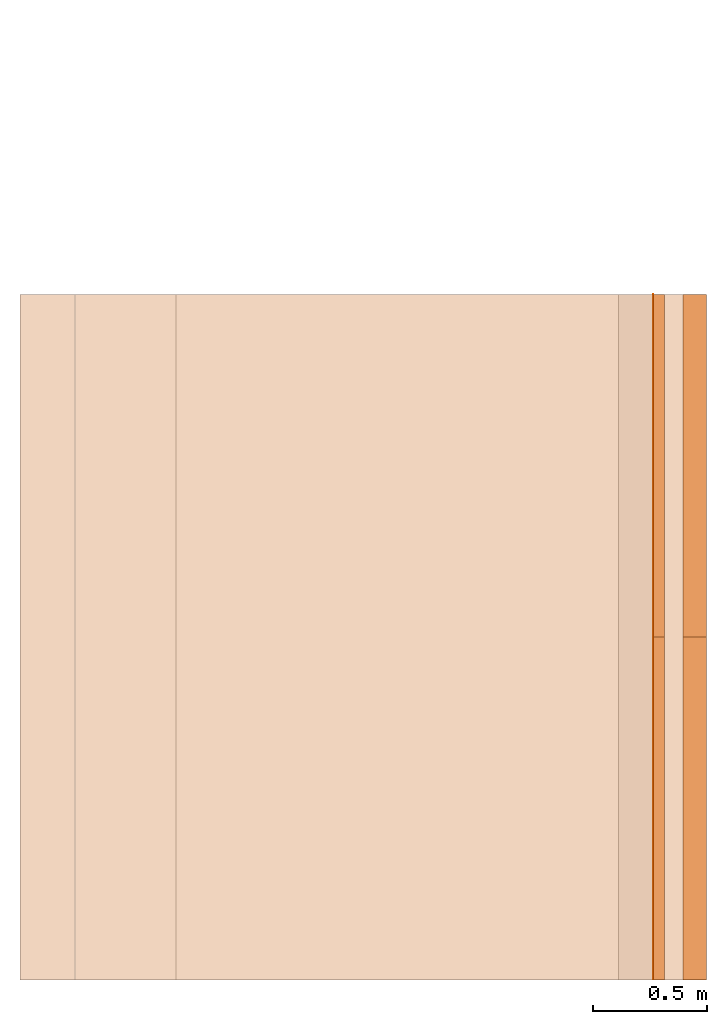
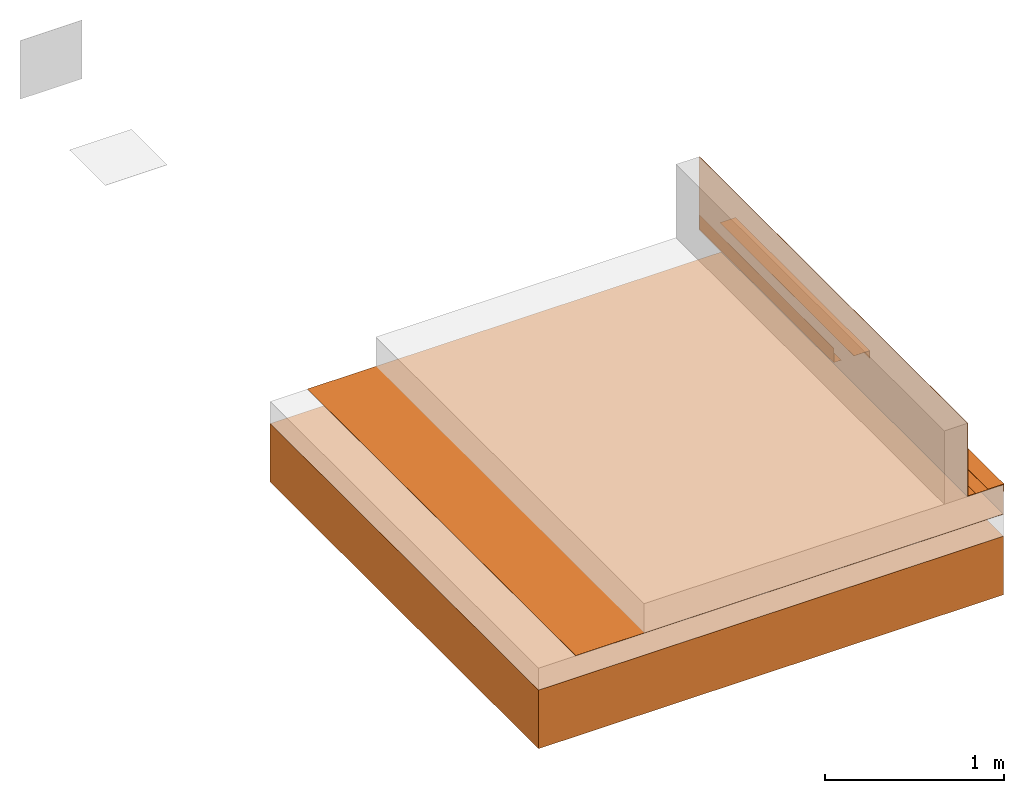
# One storey, part 2 of 2: 7 proxies.
"""IFC2X3 building model written with IfcOpenShell, lengths in metres."""

from ifc_helpers import new_model, entity, si_unit, converted_unit, derived_unit, direction, frame, frame_2d, origin, origin_2d_with_axis, place, context, subcontext, project, spatial, polyline, rectangle, outline, extrude, source, transform, mapped, material, material_list, type_object, type_shapes, element, save


model = new_model("IFC2X3")

# Units and contexts
model_context = context("Model", 3, precision=1e-05, world=origin(), true_north=direction((6.123031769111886e-17, 1.0)))
body_context = subcontext(model_context, "Body", "Model", "MODEL_VIEW")
ifc_project = project(units=[si_unit("LENGTHUNIT", "METRE"), si_unit("AREAUNIT", "SQUARE_METRE"), si_unit("VOLUMEUNIT", "CUBIC_METRE"), converted_unit("PLANEANGLEUNIT", "DEGREE", entity("IfcRatioMeasure", 0.017453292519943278), si_unit("PLANEANGLEUNIT", "RADIAN"), dimensions=[0, 0, 0, 0, 0, 0, 0]), si_unit("MASSUNIT", "GRAM", prefix="KILO"), derived_unit("MASSDENSITYUNIT", [(si_unit("MASSUNIT", "GRAM", prefix="KILO"), 1), (si_unit("LENGTHUNIT", "METRE"), -3)]), derived_unit("IONCONCENTRATIONUNIT", [(si_unit("MASSUNIT", "GRAM", prefix="KILO"), 1), (si_unit("LENGTHUNIT", "METRE"), -3)]), derived_unit("MOMENTOFINERTIAUNIT", [(si_unit("LENGTHUNIT", "METRE"), 4)]), si_unit("TIMEUNIT", "SECOND"), si_unit("FREQUENCYUNIT", "HERTZ"), si_unit("THERMODYNAMICTEMPERATUREUNIT", "DEGREE_CELSIUS"), derived_unit("THERMALTRANSMITTANCEUNIT", [(si_unit("MASSUNIT", "GRAM", prefix="KILO"), 1), (si_unit("THERMODYNAMICTEMPERATUREUNIT", "KELVIN"), -1), (si_unit("TIMEUNIT", "SECOND"), -3)]), derived_unit("THERMALCONDUCTANCEUNIT", [(si_unit("MASSUNIT", "GRAM", prefix="KILO"), 1), (si_unit("THERMODYNAMICTEMPERATUREUNIT", "KELVIN"), -1), (si_unit("TIMEUNIT", "SECOND"), -3), (si_unit("LENGTHUNIT", "METRE"), 1)]), derived_unit("VOLUMETRICFLOWRATEUNIT", [(si_unit("LENGTHUNIT", "METRE"), 3), (si_unit("TIMEUNIT", "SECOND"), -1)]), derived_unit("MASSFLOWRATEUNIT", [(si_unit("MASSUNIT", "GRAM", prefix="KILO"), 1), (si_unit("TIMEUNIT", "SECOND"), -1)]), derived_unit("ROTATIONALFREQUENCYUNIT", [(si_unit("TIMEUNIT", "SECOND"), -1)]), si_unit("ELECTRICCURRENTUNIT", "AMPERE"), si_unit("ELECTRICVOLTAGEUNIT", "VOLT"), si_unit("POWERUNIT", "WATT"), si_unit("FORCEUNIT", "NEWTON", prefix="KILO"), si_unit("ILLUMINANCEUNIT", "LUX"), si_unit("LUMINOUSFLUXUNIT", "LUMEN"), si_unit("LUMINOUSINTENSITYUNIT", "CANDELA"), derived_unit("USERDEFINED", [(si_unit("MASSUNIT", "GRAM", prefix="KILO"), -1), (si_unit("LENGTHUNIT", "METRE"), -2), (si_unit("TIMEUNIT", "SECOND"), 3), (si_unit("LUMINOUSFLUXUNIT", "LUMEN"), 1)]), derived_unit("USERDEFINED", [(si_unit("MASSUNIT", "GRAM", prefix="KILO"), 1), (si_unit("TIMEUNIT", "SECOND"), -3), (si_unit("LENGTHUNIT", "METRE"), 3), (si_unit("ELECTRICCURRENTUNIT", "AMPERE"), -2)]), derived_unit("SOUNDPOWERUNIT", [(si_unit("MASSUNIT", "GRAM", prefix="KILO"), 1), (si_unit("TIMEUNIT", "SECOND"), -3), (si_unit("LENGTHUNIT", "METRE"), 2)]), derived_unit("SOUNDPRESSUREUNIT", [(si_unit("MASSUNIT", "GRAM", prefix="KILO"), 1), (si_unit("LENGTHUNIT", "METRE"), -1), (si_unit("TIMEUNIT", "SECOND"), -2)]), derived_unit("LINEARVELOCITYUNIT", [(si_unit("LENGTHUNIT", "METRE"), 1), (si_unit("TIMEUNIT", "SECOND"), -1)]), si_unit("PRESSUREUNIT", "PASCAL"), derived_unit("USERDEFINED", [(si_unit("MASSUNIT", "GRAM", prefix="KILO"), 1), (si_unit("LENGTHUNIT", "METRE"), -2), (si_unit("TIMEUNIT", "SECOND"), -2)]), derived_unit("LINEARFORCEUNIT", [(si_unit("MASSUNIT", "GRAM", prefix="KILO"), 1), (si_unit("TIMEUNIT", "SECOND"), -2)]), derived_unit("PLANARFORCEUNIT", [(si_unit("MASSUNIT", "GRAM", prefix="KILO"), 1), (si_unit("LENGTHUNIT", "METRE"), -1), (si_unit("TIMEUNIT", "SECOND"), -2)]), derived_unit("SPECIFICHEATCAPACITYUNIT", [(si_unit("THERMODYNAMICTEMPERATUREUNIT", "KELVIN"), -1), (si_unit("LENGTHUNIT", "METRE"), 2), (si_unit("TIMEUNIT", "SECOND"), -2)]), derived_unit("HEATINGVALUEUNIT", [(si_unit("LENGTHUNIT", "METRE"), 2), (si_unit("TIMEUNIT", "SECOND"), -2)]), derived_unit("VAPORPERMEABILITYUNIT", [(si_unit("LENGTHUNIT", "METRE"), -1), (si_unit("TIMEUNIT", "SECOND"), 1)]), derived_unit("DYNAMICVISCOSITYUNIT", [(si_unit("MASSUNIT", "GRAM", prefix="KILO"), 1), (si_unit("TIMEUNIT", "SECOND"), -1), (si_unit("LENGTHUNIT", "METRE"), -1)]), derived_unit("THERMALEXPANSIONCOEFFICIENTUNIT", [(si_unit("THERMODYNAMICTEMPERATUREUNIT", "KELVIN"), -1)]), derived_unit("MODULUSOFELASTICITYUNIT", [(si_unit("MASSUNIT", "GRAM", prefix="KILO"), 1), (si_unit("LENGTHUNIT", "METRE"), -1), (si_unit("TIMEUNIT", "SECOND"), -2)]), derived_unit("ISOTHERMALMOISTURECAPACITYUNIT", [(si_unit("LENGTHUNIT", "METRE"), 3), (si_unit("MASSUNIT", "GRAM", prefix="KILO"), -1)]), derived_unit("MOISTUREDIFFUSIVITYUNIT", [(si_unit("TIMEUNIT", "SECOND"), -1), (si_unit("LENGTHUNIT", "METRE"), 2)])], contexts=[model_context])

# Site, building, storey
site_placement = place(None, origin())
site = spatial("IfcSite", under=ifc_project, at=site_placement, Name="Default", CompositionType="ELEMENT")
building_placement = place(site_placement, origin())
building = spatial("IfcBuilding", under=site, at=building_placement, CompositionType="ELEMENT")
storey_placement = place(building_placement, frame((0.0, 0.0, -0.0025237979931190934)))
storey = spatial("IfcBuildingStorey", under=building, at=storey_placement, Name="ARQ Térreo", CompositionType="ELEMENT", Elevation=-0.0025237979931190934)

# Proxies
ifc_material_1 = material(Name="#solo")
ifc_material_2 = material(Name="#Amphibia")
ifc_material_list = material_list([ifc_material_1, ifc_material_2])
building_element_proxy_type_1 = type_object("IfcBuildingElementProxyType", Name="AMPHIBIA:AMPHIBIA", PredefinedType="NOTDEFINED", material=ifc_material_list)
shared_shape_1 = source(origin(), body_context, "Body", "SweptSolid", [
    extrude(rectangle(XDim=3.0000000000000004, YDim=3.000000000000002, at=origin_2d_with_axis()), frame((0.9980295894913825, -1.354129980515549, -0.7538237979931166), z_axis=(0.0, 0.0, 1.0), x_axis=(0.0, -1.0, 0.0)), (0.0, 0.0, 1.0), 0.3999999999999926),
    extrude(outline(polyline([(-0.03290842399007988, -0.03377293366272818), (0.017091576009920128, -0.033772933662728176), (0.01709157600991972, 0.06622706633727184), (0.01581684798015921, 0.06622706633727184), (0.015816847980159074, -0.032454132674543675), (-0.03290842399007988, -0.03245413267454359), (-0.03290842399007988, -0.03377293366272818)])), frame((2.284921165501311, -2.854129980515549, 0.03254913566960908), z_axis=(0.0, 1.0, 0.0), x_axis=(-1.0, 0.0, 0.0)), (0.0, 0.0, 1.0), 3.0000000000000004),
    extrude(outline(polyline([(-0.033779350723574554, -0.032886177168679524), (-0.033779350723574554, -0.03422764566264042), (0.017558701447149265, -0.03422764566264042), (0.017558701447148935, 0.06711382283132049), (0.01622064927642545, 0.06711382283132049), (0.01622064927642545, -0.032886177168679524), (-0.033779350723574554, -0.032886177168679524)])), frame((2.4664434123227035, -2.854129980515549, -0.017444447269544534), z_axis=(0.0, -1.0, 0.0), x_axis=(0.0, 0.0, 1.0)), (0.0, 0.0, -1.0), 3.0000000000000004),
    extrude(outline(polyline([(-0.2212999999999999, -2.115920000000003), (-0.21999999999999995, -2.115920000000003), (-0.21999999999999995, 0.6440799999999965), (-0.019999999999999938, 0.6440799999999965), (-0.02000000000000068, 0.41258000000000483), (0.4800000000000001, 0.4125800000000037), (0.4800000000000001, 0.4138800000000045), (-0.01869999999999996, 0.4138800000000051), (-0.018699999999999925, 0.6453799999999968), (-0.2212999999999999, 0.6453799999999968), (-0.2212999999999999, -2.115920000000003)])), frame((1.853949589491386, -2.854129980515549, 0.017476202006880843), z_axis=(0.0, 1.0, 0.0), x_axis=(0.0, 0.0, 1.0)), (0.0, 0.0, 1.0), 3.0000000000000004),
])
type_shapes(building_element_proxy_type_1, [shared_shape_1])
proxy_1_placement = place(storey_placement, frame((0.0, 0.0, 0.0025237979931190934)))
element("IfcBuildingElementProxy", 1, at=proxy_1_placement, inside=storey, type_object=building_element_proxy_type_1, material=ifc_material_list, Name="AMPHIBIA:AMPHIBIA", ObjectType="AMPHIBIA:AMPHIBIA", context=body_context, shape_type="MappedRepresentation", body=[
    mapped(shared_shape_1, transform((0.0, 0.0, 0.0), scale=1.0)),
])
ifc_material_3 = material(Name="Alumín. 1")
building_element_proxy_type_2 = type_object("IfcBuildingElementProxyType", Name="Amphibia Pressure Corner 90°:Amphibia Pressure Corner 90°", PredefinedType="NOTDEFINED", material=ifc_material_3)
shared_shape_2 = source(origin(), body_context, "Body", "SweptSolid", [
    extrude(outline(polyline([(-0.06789431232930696, -0.017779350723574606), (0.03444715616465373, -0.017779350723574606), (0.034447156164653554, 0.03455870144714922), (0.03344715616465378, 0.03455870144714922), (0.03344715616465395, -0.01677935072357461), (-0.06789431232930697, -0.01677935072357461), (-0.06789431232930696, -0.017779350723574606)])), frame((2.46722390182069, -2.8541299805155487, -0.016665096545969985), z_axis=(0.0, 1.0, 0.0), x_axis=(1.0, 0.0, 0.0)), (0.0, 0.0, 1.0), 1.4999999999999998),
])
type_shapes(building_element_proxy_type_2, [shared_shape_2])
proxy_2_placement = place(storey_placement, frame((0.0, 0.0, 0.0025237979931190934)))
element("IfcBuildingElementProxy", 2, at=proxy_2_placement, inside=storey, type_object=building_element_proxy_type_2, material=ifc_material_3, Name="Amphibia Pressure Corner 90°:Amphibia Pressure Corner 90°", ObjectType="Amphibia Pressure Corner 90°:Amphibia Pressure Corner 90°", context=body_context, shape_type="MappedRepresentation", body=[
    mapped(shared_shape_2, transform((0.0, 0.0, 0.0), scale=1.0)),
])
building_element_proxy_type_3 = type_object("IfcBuildingElementProxyType", Name="Amphibia Pressure Corner 90°1:Amphibia Pressure Corner 90°", PredefinedType="NOTDEFINED", material=ifc_material_3)
shared_shape_3 = source(origin(), body_context, "Body", "SweptSolid", [
    extrude(outline(polyline([(-0.06789431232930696, -0.017779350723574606), (0.03444715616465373, -0.017779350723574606), (0.034447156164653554, 0.03455870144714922), (0.03344715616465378, 0.03455870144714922), (0.03344715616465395, -0.01677935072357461), (-0.06789431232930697, -0.01677935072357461), (-0.06789431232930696, -0.017779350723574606)])), frame((2.46722390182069, -1.3541299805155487, -0.016665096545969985), z_axis=(0.0, 1.0, 0.0), x_axis=(1.0, 0.0, 0.0)), (0.0, 0.0, 1.0), 1.4999999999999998),
])
type_shapes(building_element_proxy_type_3, [shared_shape_3])
proxy_3_placement = place(storey_placement, frame((0.0, 0.0, 0.0025237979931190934)))
element("IfcBuildingElementProxy", 3, at=proxy_3_placement, inside=storey, type_object=building_element_proxy_type_3, material=ifc_material_3, Name="Amphibia Pressure Corner 90°1:Amphibia Pressure Corner 90°", ObjectType="Amphibia Pressure Corner 90°1:Amphibia Pressure Corner 90°", context=body_context, shape_type="MappedRepresentation", body=[
    mapped(shared_shape_3, transform((0.0, 0.0, 0.0), scale=1.0)),
])
building_element_proxy_type_4 = type_object("IfcBuildingElementProxyType", Name="Amphibia Pressure Corner 270°:Amphibia Pressure Corner 270°", PredefinedType="NOTDEFINED", material=ifc_material_3)
shared_shape_4 = source(origin(), body_context, "Body", "SweptSolid", [
    extrude(outline(polyline([(-0.06545413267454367, -0.015575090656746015), (-0.06545413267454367, -0.016575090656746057), (0.033227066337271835, -0.016575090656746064), (0.033227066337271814, 0.032150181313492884), (0.03222706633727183, 0.03215018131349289), (0.03222706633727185, -0.015575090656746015), (-0.06545413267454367, -0.015575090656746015)])), frame((2.285679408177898, -2.8541299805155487, 0.033322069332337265), z_axis=(0.0, -1.0, 0.0), x_axis=(0.0, 0.0, -1.0)), (0.0, 0.0, -1.0), 1.4999999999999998),
])
type_shapes(building_element_proxy_type_4, [shared_shape_4])
proxy_4_placement = place(storey_placement, frame((0.0, 0.0, 0.0025237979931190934)))
element("IfcBuildingElementProxy", 4, at=proxy_4_placement, inside=storey, type_object=building_element_proxy_type_4, material=ifc_material_3, Name="Amphibia Pressure Corner 270°:Amphibia Pressure Corner 270°", ObjectType="Amphibia Pressure Corner 270°:Amphibia Pressure Corner 270°", context=body_context, shape_type="MappedRepresentation", body=[
    mapped(shared_shape_4, transform((0.0, 0.0, 0.0), scale=1.0)),
])
building_element_proxy_type_5 = type_object("IfcBuildingElementProxyType", Name="Amphibia Pressure Corner 270°1:Amphibia Pressure Corner 270°", PredefinedType="NOTDEFINED", material=ifc_material_3)
shared_shape_5 = source(origin(), body_context, "Body", "SweptSolid", [
    extrude(outline(polyline([(-0.06545413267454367, -0.015575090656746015), (-0.06545413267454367, -0.016575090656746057), (0.033227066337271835, -0.016575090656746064), (0.033227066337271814, 0.032150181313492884), (0.03222706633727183, 0.03215018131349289), (0.03222706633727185, -0.015575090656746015), (-0.06545413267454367, -0.015575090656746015)])), frame((2.285679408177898, -1.3541299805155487, 0.033322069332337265), z_axis=(0.0, -1.0, 0.0), x_axis=(0.0, 0.0, -1.0)), (0.0, 0.0, -1.0), 1.4999999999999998),
])
type_shapes(building_element_proxy_type_5, [shared_shape_5])
proxy_5_placement = place(storey_placement, frame((0.0, 0.0, 0.0025237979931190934)))
element("IfcBuildingElementProxy", 5, at=proxy_5_placement, inside=storey, type_object=building_element_proxy_type_5, material=ifc_material_3, Name="Amphibia Pressure Corner 270°1:Amphibia Pressure Corner 270°", ObjectType="Amphibia Pressure Corner 270°1:Amphibia Pressure Corner 270°", context=body_context, shape_type="MappedRepresentation", body=[
    mapped(shared_shape_5, transform((0.0, 0.0, 0.0), scale=1.0)),
])
building_element_proxy_type_6 = type_object("IfcBuildingElementProxyType", Name="Amphibia Pressure Line:Amphibia Pressure Line", PredefinedType="NOTDEFINED", material=ifc_material_3)
shared_shape_6 = source(origin(), body_context, "Body", "SweptSolid", [
    extrude(rectangle(XDim=1.5, YDim=0.001000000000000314, at=frame_2d((-1.6653345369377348e-16, -2.706710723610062e-16), x_axis=(1.0, 0.0))), frame((2.268329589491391, -2.1041299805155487, 0.44747620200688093), z_axis=(0.0, 0.0, 1.0), x_axis=(0.0, -1.0, 0.0)), (0.0, 0.0, 1.0), 0.05),
])
type_shapes(building_element_proxy_type_6, [shared_shape_6])
proxy_6_placement = place(storey_placement, frame((0.0, 0.0, 0.0025237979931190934)))
element("IfcBuildingElementProxy", 6, at=proxy_6_placement, inside=storey, type_object=building_element_proxy_type_6, material=ifc_material_3, Name="Amphibia Pressure Line:Amphibia Pressure Line", ObjectType="Amphibia Pressure Line:Amphibia Pressure Line", context=body_context, shape_type="MappedRepresentation", body=[
    mapped(shared_shape_6, transform((0.0, 0.0, 0.0), scale=1.0)),
])
building_element_proxy_type_7 = type_object("IfcBuildingElementProxyType", Name="Amphibia Pressure Line1:Amphibia Pressure Line", PredefinedType="NOTDEFINED", material=ifc_material_3)
shared_shape_7 = source(origin(), body_context, "Body", "SweptSolid", [
    extrude(rectangle(XDim=1.4999999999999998, YDim=0.001000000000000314, at=frame_2d((0.0, -2.706710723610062e-16), x_axis=(1.0, 0.0))), frame((2.268329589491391, -0.6041299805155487, 0.44747620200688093), z_axis=(0.0, 0.0, 1.0), x_axis=(0.0, -1.0, 0.0)), (0.0, 0.0, 1.0), 0.05),
])
type_shapes(building_element_proxy_type_7, [shared_shape_7])
proxy_7_placement = place(storey_placement, frame((0.0, 0.0, 0.0025237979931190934)))
element("IfcBuildingElementProxy", 7, at=proxy_7_placement, inside=storey, type_object=building_element_proxy_type_7, material=ifc_material_3, Name="Amphibia Pressure Line1:Amphibia Pressure Line", ObjectType="Amphibia Pressure Line1:Amphibia Pressure Line", context=body_context, shape_type="MappedRepresentation", body=[
    mapped(shared_shape_7, transform((0.0, 0.0, 0.0), scale=1.0)),
])

save(model, "model.ifc")
